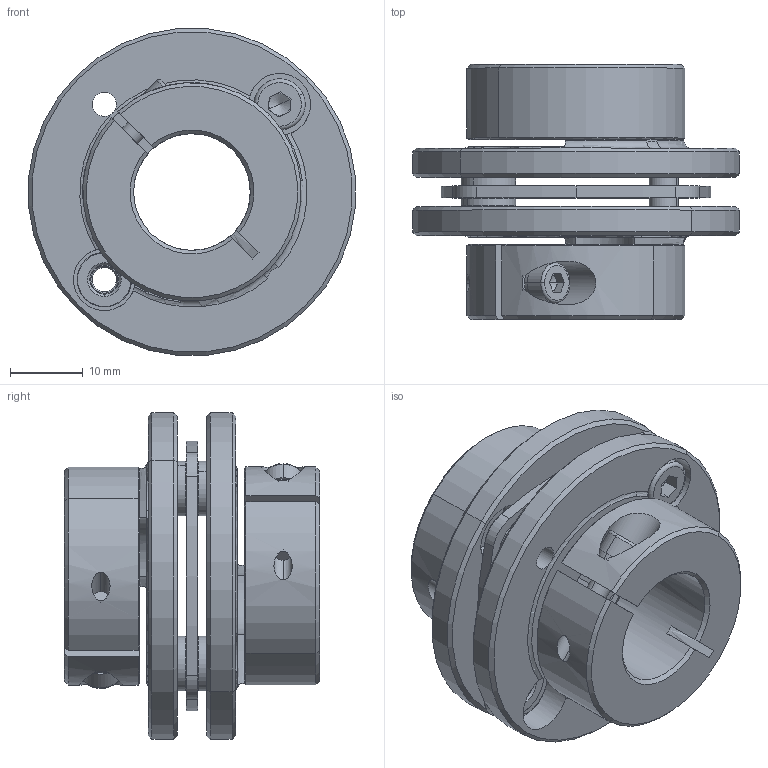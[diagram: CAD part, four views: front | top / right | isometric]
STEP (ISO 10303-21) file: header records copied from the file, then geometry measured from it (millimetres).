
FILE_DESCRIPTION (( 'STEP AP203' ), '1' );
FILE_NAME ('LE1-B-D45L35-16-16.STEP', '2021-11-01T03:20:36', ( '' ), ( '' ), 'SwSTEP 2.0', 'SolidWorks 2018', '' );
FILE_SCHEMA (( 'CONFIG_CONTROL_DESIGN' ));
Length unit declared in the file: millimetre
Products named in the file (1): LE1-B-D45L35-16-16
Bounding box: 44.83 x 35 x 44.83 mm (x, y, z)
Volume: 22260.7 mm3; surface area: 14821.4 mm2
Topology: 1 solids, 3 shells, 311 faces, 775 edges, 480 vertices
Faces by surface type: cylinder 115, plane 98, cone 82, torus 14, bspline 2
Entity records: 9750 total; most frequent: CARTESIAN_POINT 2009, DIRECTION 1741, ORIENTED_EDGE 1534, EDGE_CURVE 767, AXIS2_PLACEMENT_3D 712, VERTEX_POINT 480, CIRCLE 402, EDGE_LOOP 363
